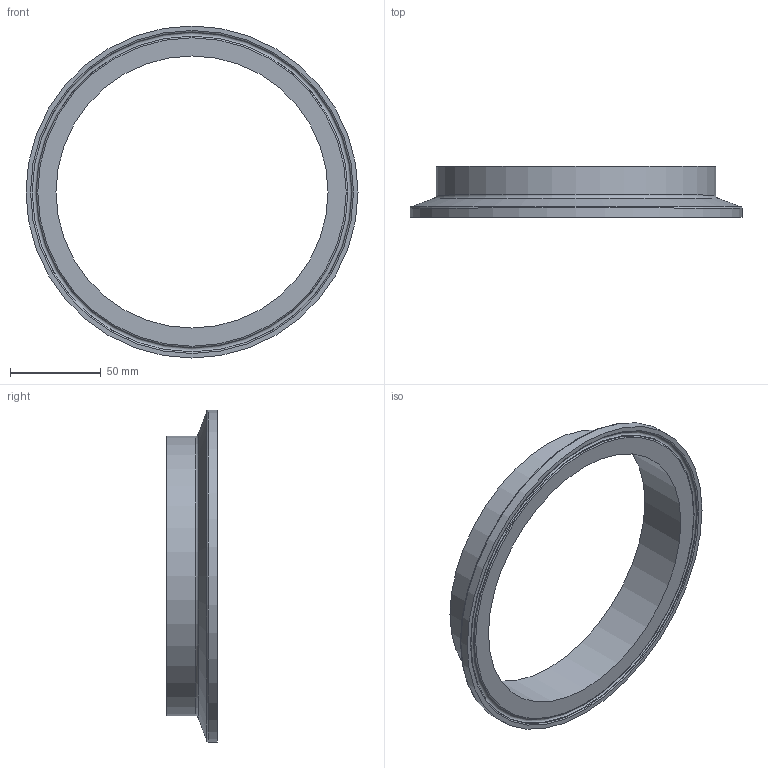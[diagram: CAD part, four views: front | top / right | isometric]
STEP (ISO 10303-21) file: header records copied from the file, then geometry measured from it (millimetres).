
FILE_DESCRIPTION(('Ferrule_154x2_L28_FL183_V01'),'2;1');
FILE_NAME('Ferrule_154x2_L28_FL183_V01.stp','2013-11-03T12:52:59',('DOCKWEILER AG'),('DOCKWEILER AG'),'Autodesk Inventor 2012','Autodesk Inventor 2012','');
FILE_SCHEMA(('CONFIG_CONTROL_DESIGN'));
Length unit declared in the file: millimetre
Products named in the file (1): N0003_003_001
Bounding box: 183 x 28 x 183 mm (x, y, z)
Volume: 87623.5 mm3; surface area: 43018.4 mm2
Topology: 1 solids, 1 shells, 14 faces, 25 edges, 14 vertices
Faces by surface type: torus 5, plane 3, cylinder 3, cone 3
Full cylindrical faces by diameter (mm): 150 x1, 154 x1, 183 x1
Entity records: 314 total; most frequent: DIRECTION 58, CARTESIAN_POINT 43, AXIS2_PLACEMENT_3D 29, ORIENTED_EDGE 28, EDGE_LOOP 28, VERTEX_POINT 14, CIRCLE 14, EDGE_CURVE 14
